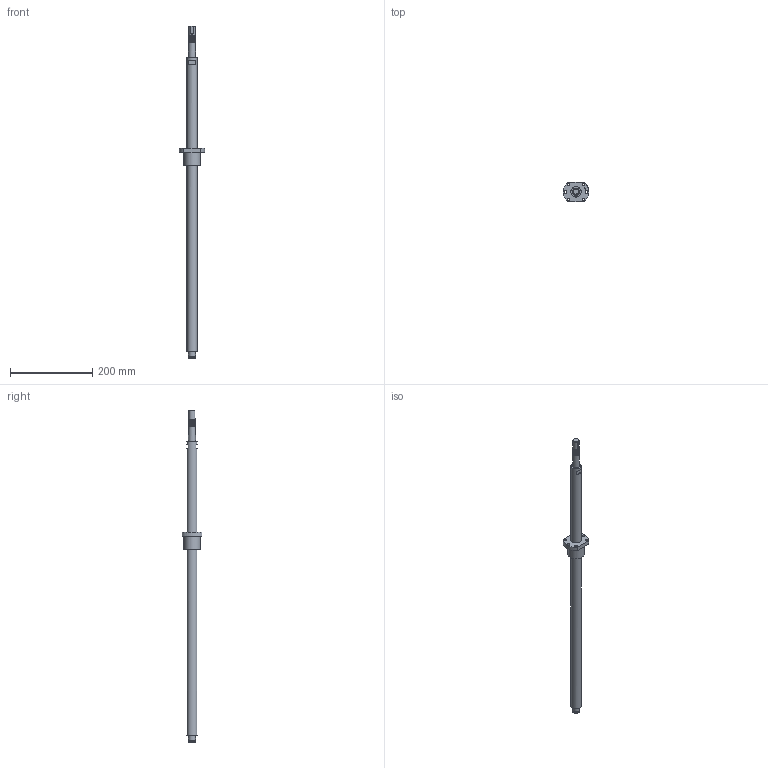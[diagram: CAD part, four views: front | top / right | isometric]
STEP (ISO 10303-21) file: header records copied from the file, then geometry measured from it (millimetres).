
FILE_DESCRIPTION(/* description */ (''),/* implementation_level */ '2;1');
FILE_NAME(/* name */ 'BSG281_asm1.stp',/* time_stamp */ '2017-01-12T10:12:13+08:00',/* author */ (''),/* organization */ (''),/* preprocessor_version */ 'ST-DEVELOPER v15',/* originating_system */ 'SIEMENS PLM Software NX 8.5',/* authorisation */ '');
FILE_SCHEMA (('AUTOMOTIVE_DESIGN { 1 0 10303 214 3 1 1 1 }'));
Length unit declared in the file: millimetre
Products named in the file (3): 01; BSG281; BSG281_asm1
Assembly tree (2 placements, depth 2):
  BSG281_asm1
    BSG281
    01
Bounding box: 61.8 x 48 x 805 mm (x, y, z)
Volume: 43546.8 mm3; surface area: 77092.5 mm2
Topology: 1 solids, 2 shells, 64 faces, 163 edges, 111 vertices
Faces by surface type: cylinder 36, plane 24, bspline 2, cone 2
Full cylindrical faces by diameter (mm): 5 x1, 6 x1, 6.6 x6, 15 x1, 16.2 x1, 17 x19, 25 x2, 40 x1
Entity records: 4684 total; most frequent: CARTESIAN_POINT 3601, DIRECTION 212, ORIENTED_EDGE 170, AXIS2_PLACEMENT_3D 92, EDGE_LOOP 90, EDGE_CURVE 85, FACE_BOUND 69, VERTEX_POINT 67
